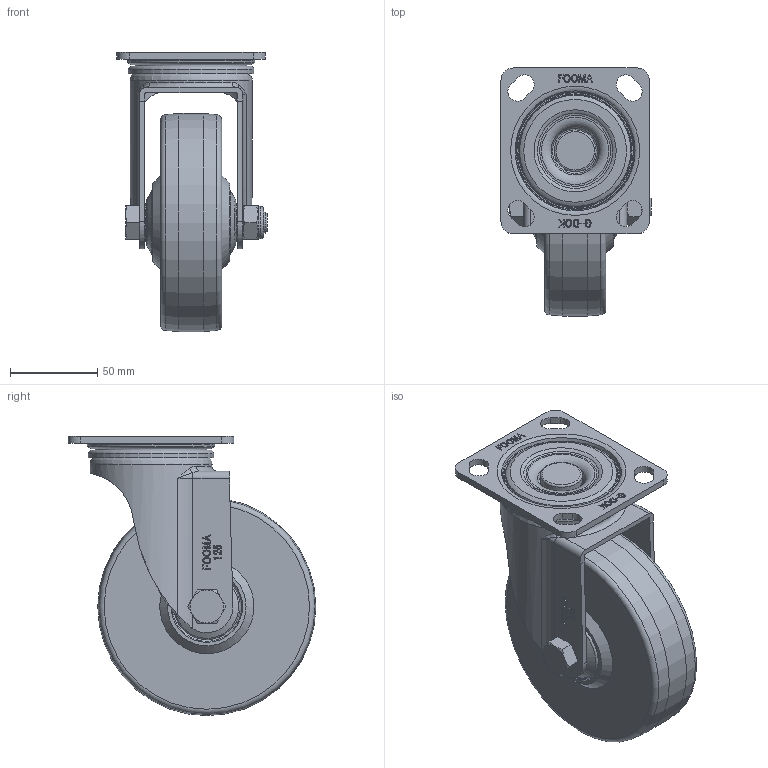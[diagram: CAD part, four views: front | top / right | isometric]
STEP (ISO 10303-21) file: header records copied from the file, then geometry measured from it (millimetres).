
FILE_DESCRIPTION(/* description */ (''),/* implementation_level */ '2;1');
FILE_NAME(/* name */ 'E:\★.DWG\★개발도면\PLM-SERIES(경중하중)-2016\홈페이지용\STEP\PLM-125-ASF-MCD.stp',/* time_stamp */ '2018-02-20T17:56:00+09:00',/* author */ ('장용하'),/* organization */ (''),/* preprocessor_version */ 'ST-DEVELOPER v16.13',/* originating_system */ 'Autodesk Inventor 2018',/* authorisation */ '');
FILE_SCHEMA (('AUTOMOTIVE_DESIGN { 1 0 10303 214 3 1 1 }'));
Length unit declared in the file: millimetre
Products named in the file (1): PLM-125-ASF-MCD ASSY_Shrinkwrap_1
Bounding box: 86 x 142 x 160 mm (x, y, z)
Volume: 554281 mm3; surface area: 92097.3 mm2
Topology: 1 solids, 1 shells, 713 faces, 1875 edges, 1217 vertices
Faces by surface type: plane 391, bspline 192, torus 57, cylinder 45, cone 28
Full cylindrical faces by diameter (mm): 12 x1, 18.5 x1, 22 x4, 24 x1, 24.4 x1, 36 x2, 38 x2, 40 x2, 53.029 x1, 54.5 x1, 64 x1, 64.418 x2, 70 x1, 70.6 x1, 72 x1, 125 x1
Entity records: 22954 total; most frequent: CARTESIAN_POINT 6085, ORIENTED_EDGE 3552, DIRECTION 2839, EDGE_CURVE 1776, VERTEX_POINT 1200, AXIS2_PLACEMENT_3D 978, LINE 883, VECTOR 883
